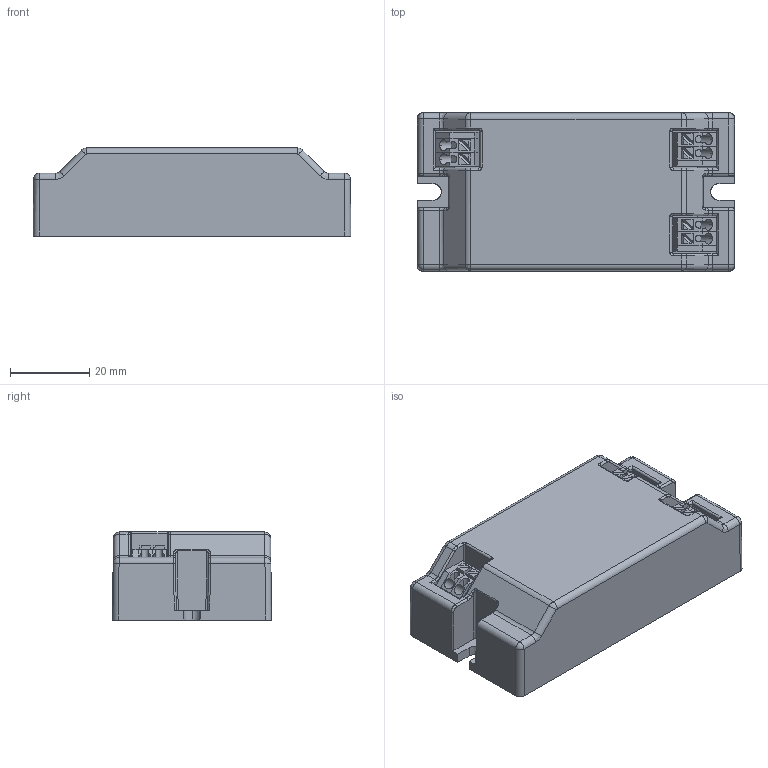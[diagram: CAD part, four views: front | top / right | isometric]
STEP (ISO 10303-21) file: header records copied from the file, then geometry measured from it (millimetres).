
FILE_DESCRIPTION (( 'STEP AP203' ), '1' );
FILE_NAME ('QT-ECO-S.STEP', '2006-02-14T14:27:09', ( 'OSRAM GmbH' ), ( 'OSRAM GmbH' ), 'SwSTEP 2.0', 'SolidWorks 2005074', '' );
FILE_SCHEMA (( 'CONFIG_CONTROL_DESIGN' ));
Length unit declared in the file: millimetre
Products named in the file (1): QT-ECO-S
Bounding box: 80 x 40 x 22.2 mm (x, y, z)
Surface area: 33011.7 mm2 (no closed solid volume)
Topology: 0 solids, 671 shells, 689 faces, 3500 edges, 3474 vertices
Faces by surface type: plane 438, cylinder 163, bspline 73, sphere 8, cone 7
Entity records: 42620 total; most frequent: CARTESIAN_POINT 18268, DIRECTION 3911, ORIENTED_EDGE 3526, EDGE_CURVE 3500, VERTEX_POINT 3474, VECTOR 1985, LINE 1985, B_SPLINE_CURVE_WITH_KNOTS 1157
